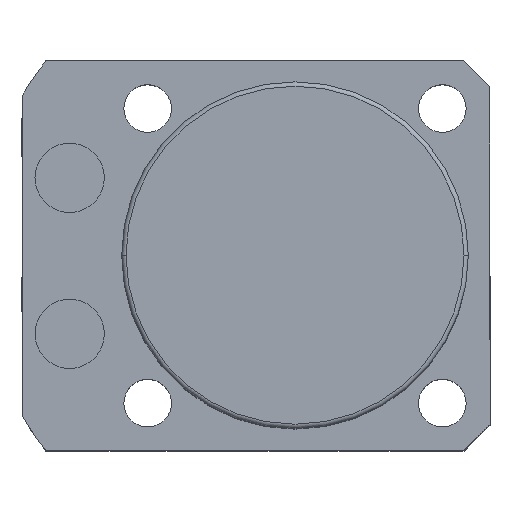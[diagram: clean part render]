
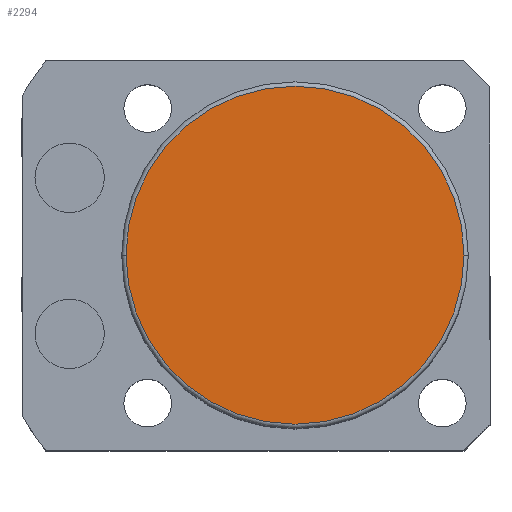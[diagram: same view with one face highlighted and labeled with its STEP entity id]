
A CAD part, top view. The second image highlights one B-rep face of the part: STEP entity #2294.
In plain terms, the highlighted planar face has unit normal (0, 0, 1).
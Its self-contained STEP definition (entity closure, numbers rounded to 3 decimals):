
#68 = DIRECTION ( 'NONE',  ( 1., 0., 0. ) ) ;
#94 = AXIS2_PLACEMENT_3D ( 'NONE', #1068, #2463, #2077 ) ;
#432 = DIRECTION ( 'NONE',  ( 0., 0., 1. ) ) ;
#628 = EDGE_LOOP ( 'NONE', ( #1526, #2085 ) ) ;
#678 = EDGE_CURVE ( 'NONE', #1076, #1585, #1617, .T. ) ;
#701 = CARTESIAN_POINT ( 'NONE',  ( 0., 0., 53.5 ) ) ;
#783 = CARTESIAN_POINT ( 'NONE',  ( 19.5, 0., 53.5 ) ) ;
#1001 = CIRCLE ( 'NONE', #2322, 19.5 ) ;
#1068 = CARTESIAN_POINT ( 'NONE',  ( 0., 0., 53.5 ) ) ;
#1076 = VERTEX_POINT ( 'NONE', #783 ) ;
#1219 = PLANE ( 'NONE',  #2288 ) ;
#1456 = EDGE_CURVE ( 'NONE', #1585, #1076, #1001, .T. ) ;
#1526 = ORIENTED_EDGE ( 'NONE', *, *, #678, .T. ) ;
#1543 = CARTESIAN_POINT ( 'NONE',  ( -19.5, 0., 53.5 ) ) ;
#1585 = VERTEX_POINT ( 'NONE', #1543 ) ;
#1617 = CIRCLE ( 'NONE', #94, 19.5 ) ;
#1902 = DIRECTION ( 'NONE',  ( 0., 0., 1. ) ) ;
#2077 = DIRECTION ( 'NONE',  ( 1., 0., 0. ) ) ;
#2085 = ORIENTED_EDGE ( 'NONE', *, *, #1456, .T. ) ;
#2089 = DIRECTION ( 'NONE',  ( 1., 0., 0. ) ) ;
#2098 = FACE_OUTER_BOUND ( 'NONE', #628, .T. ) ;
#2288 = AXIS2_PLACEMENT_3D ( 'NONE', #2395, #432, #68 ) ;
#2294 = ADVANCED_FACE ( 'NONE', ( #2098 ), #1219, .T. ) ;
#2322 = AXIS2_PLACEMENT_3D ( 'NONE', #701, #1902, #2089 ) ;
#2395 = CARTESIAN_POINT ( 'NONE',  ( 0., 0., 53.5 ) ) ;
#2463 = DIRECTION ( 'NONE',  ( 0., 0., 1. ) ) ;
